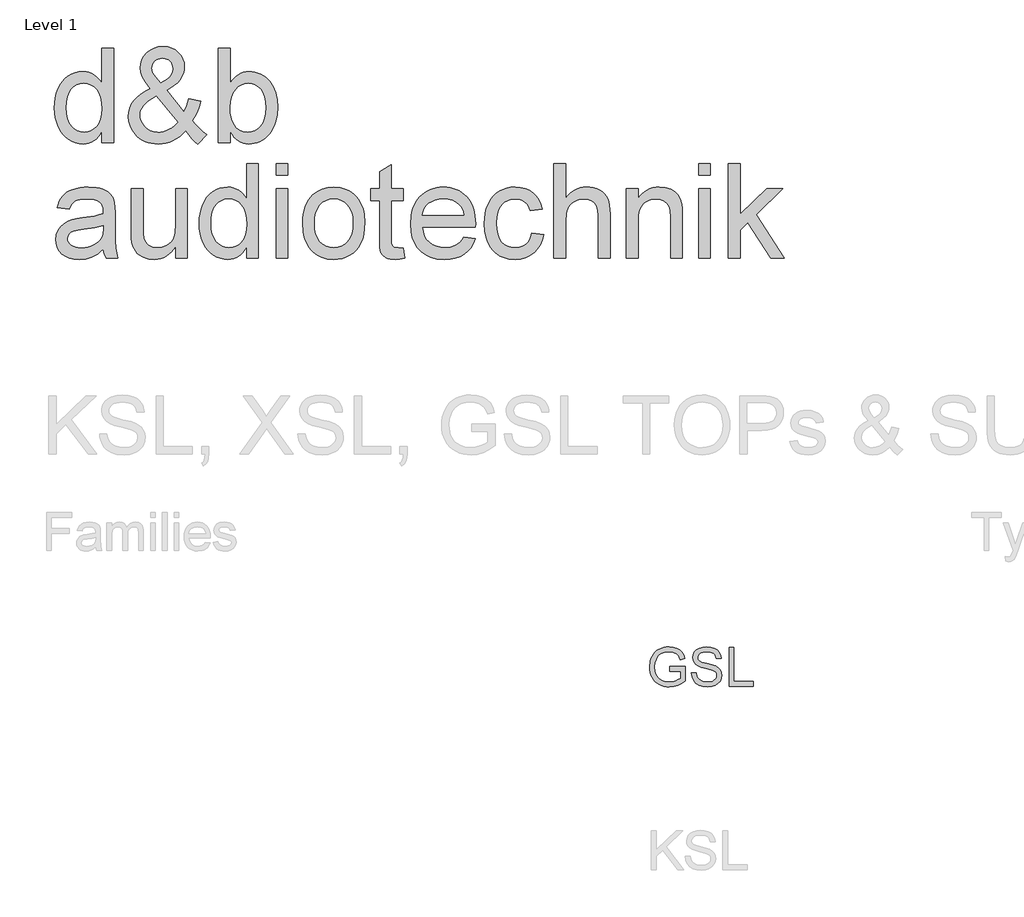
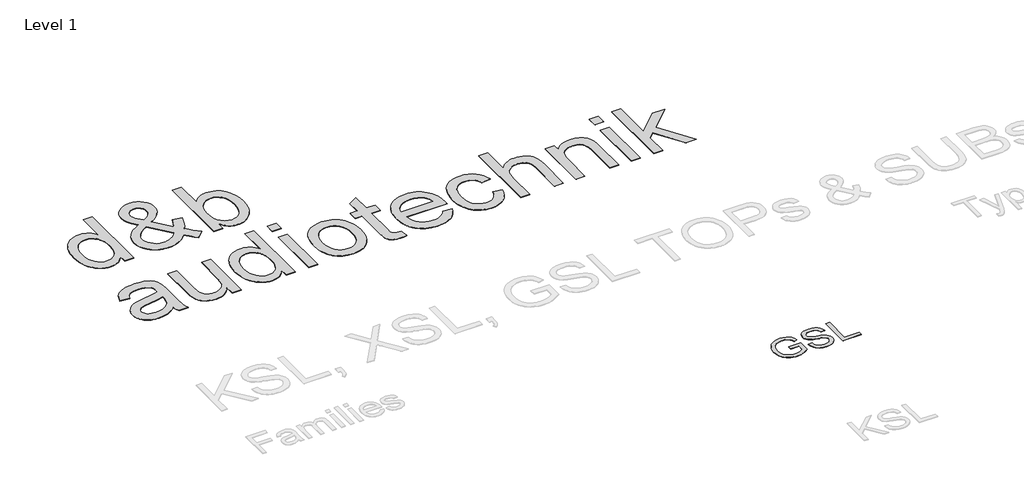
# One storey, part 46 of 52: 2 proxies.
"""IFC4 building model written with IfcOpenShell, lengths in millimetres."""

from ifc_helpers import new_model, si_unit, origin, origin_with_axes, place, context, project, spatial, polyline, outline, extrude, element, save

model = new_model("IFC4")

# Units and contexts
model_context = context("Model", 3, world=origin())
ifc_project = project(units=[si_unit("LENGTHUNIT", "METRE", prefix="MILLI")], contexts=[model_context])

# Site, building, storey
site = spatial("IfcSite", under=ifc_project)
building = spatial("IfcBuilding", under=site)
storey = spatial("IfcBuildingStorey", under=building, Name="Level 1", Elevation=0.0)

# Proxies
placement = place(None, origin())
element("IfcBuildingElementProxy", 1, Name="1000mm Arial", ObjectType="1000mm Arial", at=placement, inside=storey, context=model_context, shape_type="SweptSolid", body=[
    extrude(outline(polyline([(-20485.0918031, 21579.111869), (-20485.0918031, 21694.6019258), (-20502.4384754, 21663.947296), (-20521.720443, 21637.3799502), (-20542.937706, 21614.8998883), (-20566.0902643, 21596.5071105), (-20591.1781179, 21582.2016166), (-20618.2012669, 21571.9834066), (-20647.1597112, 21565.8524807), (-20678.0534508, 21563.8088387), (-20718.4630152, 21566.7678231), (-20757.1988107, 21575.6447762), (-20794.2608372, 21590.4396981), (-20829.6490948, 21611.1525887), (-20862.2577004, 21637.1632569), (-20890.9807709, 21667.8515115), (-20915.8183064, 21703.2173525), (-20936.7703069, 21743.26078), (-20953.4033857, 21787.2196312), (-20965.2841563, 21834.3317435), (-20972.4126187, 21884.597117), (-20974.7887728, 21938.0157516), (-20972.5994233, 21990.4555302), (-20966.0313746, 22040.4145442), (-20955.0846269, 22087.8927935), (-20939.75918, 22132.8902781), (-20920.0625062, 22174.0918939), (-20896.0020777, 22210.1825366), (-20867.5778945, 22241.1622064), (-20834.7899565, 22267.0309031), (-20798.7964521, 22287.429962), (-20760.7555697, 22302.0007184), (-20720.6673091, 22310.7431723), (-20678.5316705, 22313.6573235), (-20647.7163888, 22311.5725845), (-20618.6346535, 22305.3183676), (-20591.2864646, 22294.8946726), (-20565.671822, 22280.3014997), (-20542.0746689, 22262.3757332), (-20520.778948, 22241.9542577), (-20501.7846594, 22219.0370732), (-20485.0918031, 22193.6241796), (-20485.0918031, 22558.5058084), (-20362.6675607, 22558.5058084), (-20362.6675607, 21579.111869), (-20485.0918031, 21579.111869)]), holes=[polyline([(-20852.3645304, 21938.4939713), (-20848.9123819, 21879.1274792), (-20838.5559366, 21827.7562227), (-20821.2951944, 21784.3802017), (-20797.1301554, 21748.9994163), (-20768.2725855, 21721.5391447), (-20736.934251, 21701.9246649), (-20703.1151518, 21690.1559771), (-20666.815288, 21686.2330811), (-20630.3435639, 21689.9766447), (-20596.7262136, 21701.2073354), (-20565.9632372, 21719.9251532), (-20538.0546345, 21746.1300982), (-20514.8833958, 21780.0313914), (-20498.332511, 21821.8382539), (-20488.4019801, 21871.5506859), (-20485.0918031, 21929.1686872), (-20488.4617575, 21992.3385203), (-20498.5716208, 22046.5118453), (-20515.4213929, 22091.6886623), (-20539.0110739, 22127.8689713), (-20567.5323956, 22155.5907693), (-20599.1770896, 22175.3920537), (-20633.945156, 22187.2728242), (-20671.8365948, 22191.2330811), (-20708.8537882, 22187.4297401), (-20742.6728874, 22176.019717), (-20773.2938924, 22157.0030119), (-20800.7168031, 22130.3796247), (-20823.3126838, 22095.5667252), (-20839.4525986, 22051.9814831), (-20849.1365474, 21999.6238985), (-20852.3645304, 21938.4939713)])]), origin_with_axes(), (0.0, 0.0, 1.0), 5.0),
    extrude(outline(polyline([(-19617.362163, 21700.1014523), (-19647.8038355, 21668.157871), (-19679.590501, 21640.4734339), (-19712.7221594, 21617.0481409), (-19747.1988107, 21597.8819921), (-19783.0503436, 21582.9749875), (-19820.3066469, 21572.327127), (-19858.9677205, 21565.9384108), (-19899.0335645, 21563.8088387), (-19935.7219818, 21565.3854693), (-19970.4676317, 21570.1153609), (-20003.270514, 21577.9985138), (-20034.1306289, 21589.0349277), (-20063.0479762, 21603.2246028), (-20090.0225559, 21620.567539), (-20115.0543682, 21641.0637363), (-20138.143413, 21664.7131948), (-20169.42197, 21707.0505823), (-20191.7637965, 21751.8089571), (-20205.1688924, 21798.988319), (-20209.6372577, 21848.5886682), (-20206.0431377, 21892.569936), (-20195.260778, 21934.3693264), (-20177.2901785, 21973.9868394), (-20152.1313391, 22011.4224751), (-20119.829093, 22046.661289), (-20080.4282733, 22079.6883368), (-20033.9288799, 22110.5036185), (-19980.330913, 22139.1071341), (-20033.7420754, 22208.2098804), (-20065.8126838, 22262.9660357), (-20081.8629324, 22309.712011), (-20087.2130152, 22354.7842175), (-20082.9987041, 22397.569936), (-20070.3557709, 22437.4564476), (-20049.2842155, 22474.4437523), (-20019.784038, 22508.5318501), (-19983.9026163, 22537.0905326), (-19943.6873287, 22557.4895915), (-19899.138175, 22569.7290269), (-19850.2551554, 22573.8088387), (-19803.5839018, 22569.9083593), (-19761.3660692, 22558.2069211), (-19723.6016575, 22538.7045241), (-19690.2906667, 22511.4011682), (-19663.0919215, 22478.6281746), (-19643.6642463, 22442.7168643), (-19632.0076412, 22403.6672371), (-19628.1221061, 22361.4792932), (-19630.9988965, 22326.7336434), (-19639.6292676, 22293.273209), (-19654.0132194, 22261.09799), (-19674.150752, 22230.2079864), (-19700.0418653, 22200.6031983), (-19731.6865593, 22172.2836256), (-19769.084834, 22145.2492684), (-19812.2366895, 22119.5001266), (-19635.0562917, 21898.8017364), (-19604.8686734, 21961.866959), (-19582.2130152, 22034.3770205), (-19459.7887728, 22007.8358273), (-19477.213903, 21947.9836434), (-19497.4485739, 21894.4379817), (-19520.4927856, 21847.1988422), (-19546.346538, 21806.2662251), (-19512.6320493, 21763.9138931), (-19476.765572, 21725.0884315), (-19438.7471061, 21689.7898401), (-19398.5766516, 21658.018119), (-19490.3948334, 21563.8088387), (-19521.3745032, 21589.6327023), (-19552.8622813, 21620.9560925), (-19617.362163, 21700.1014523)]), holes=[polyline([(-19874.1661402, 22196.7326076), (-19810.1444783, 22237.3513931), (-19788.4004264, 22255.6657131), (-19773.500894, 22272.6499845), (-19756.2849849, 22306.9921365), (-19750.5463486, 22344.7416038), (-19752.4368108, 22367.2104574), (-19758.1081975, 22387.512378), (-19767.5605087, 22405.6473656), (-19780.7937444, 22421.6154201), (-19796.8664095, 22434.6394347), (-19814.8370091, 22443.9423022), (-19834.705543, 22449.5240228), (-19856.4720114, 22451.3845963), (-19878.7017552, 22449.5389671), (-19899.0036757, 22444.0020797), (-19917.3777732, 22434.773934), (-19933.8240474, 22421.85453), (-19947.3711148, 22406.2750289), (-19957.0475915, 22389.066592), (-19962.8534775, 22370.2292193), (-19964.7887728, 22349.7629107), (-19962.1585645, 22327.9142483), (-19954.2679395, 22304.9298141), (-19941.0571203, 22280.6900532), (-19922.4663296, 22255.0754107), (-19874.1661402, 22196.7326076)]), polyline([(-19699.376841, 21788.3329864), (-19917.9232425, 22061.1573235), (-19963.7202507, 22034.0333001), (-20001.4024684, 22007.8956048), (-20030.9698956, 21982.7442376), (-20052.4225323, 21958.5791985), (-20067.6433686, 21934.967101), (-20078.5153945, 21911.4745584), (-20085.03861, 21888.1015707), (-20087.2130152, 21864.8481379), (-20084.2390865, 21836.2446223), (-20075.3173003, 21807.1031095), (-20060.4476566, 21777.4235996), (-20039.6301554, 21747.2060925), (-20013.3579608, 21720.5304), (-19982.1242368, 21701.476334), (-19945.9289835, 21690.0438943), (-19904.7722008, 21686.2330811), (-19877.2969848, 21688.0114606), (-19849.3883822, 21693.3465991), (-19821.0463929, 21702.2384966), (-19792.2710171, 21714.6871531), (-19764.7210793, 21729.9602947), (-19740.055404, 21747.3256474), (-19718.2739912, 21766.7832113), (-19699.376841, 21788.3329864)])]), origin_with_axes(), (0.0, 0.0, 1.0), 5.0),
    extrude(outline(polyline([(-19153.7281667, 21579.111869), (-19276.1524092, 21579.111869), (-19276.1524092, 22558.5058084), (-19153.7281667, 22558.5058084), (-19153.7281667, 22195.2979485), (-19134.2481863, 22223.0384271), (-19113.468046, 22247.0801751), (-19091.3877459, 22267.4231927), (-19068.0072861, 22284.0674798), (-19043.3266664, 22297.0130364), (-19017.3458869, 22306.2598626), (-18990.0649476, 22311.8079583), (-18961.4838486, 22313.6573235), (-18929.5178507, 22311.9910268), (-18898.418626, 22306.9921365), (-18868.1861746, 22298.6606527), (-18838.8204963, 22286.9965754), (-18811.1734201, 22272.3137363), (-18786.0967747, 22254.925967), (-18763.5905602, 22234.8332675), (-18743.6547766, 22212.0356379), (-18710.3886189, 22158.7440305), (-18685.1924186, 22095.4695868), (-18669.3215024, 22024.8425153), (-18664.031197, 21949.4930243), (-18669.508307, 21862.5467056), (-18676.3546945, 21822.9964423), (-18685.9396369, 21786.0614429), (-18698.2631343, 21751.7417074), (-18713.3251867, 21720.0372359), (-18731.1257941, 21690.9480284), (-18751.6649565, 21664.4740849), (-18797.6861302, 21620.4330397), (-18822.3499374, 21603.1312005), (-18848.1158916, 21588.9751502), (-18874.9839928, 21577.9648889), (-18902.954241, 21570.1004166), (-18932.0266361, 21565.3817332), (-18962.2011781, 21563.8088387), (-18991.8694798, 21565.8375363), (-19019.9013734, 21571.9236292), (-19046.296859, 21582.0671173), (-19071.0559366, 21596.2680006), (-19094.1786062, 21614.5262792), (-19115.6648677, 21636.841953), (-19135.5147213, 21663.2150221), (-19153.7281667, 21693.6454864), (-19153.7281667, 21579.111869)]), holes=[polyline([(-19153.7281667, 21943.7543879), (-19151.6359556, 21888.5797904), (-19145.359322, 21841.6544826), (-19134.8982662, 21802.9784646), (-19120.252788, 21772.5517364), (-19090.5882224, 21734.7873247), (-19056.1115711, 21707.8127449), (-19016.8228341, 21691.6279971), (-18972.7220114, 21686.2330811), (-18936.1083159, 21690.2082823), (-18902.0650512, 21702.133886), (-18870.5922174, 21722.0098922), (-18841.6898145, 21749.8363008), (-18817.5247754, 21785.5383901), (-18800.2640332, 21829.0414381), (-18789.9075879, 21880.345445), (-18786.4554395, 21939.4504107), (-18789.7656164, 21999.6762037), (-18799.6961473, 22051.4733747), (-18816.2470322, 22094.8419234), (-18839.4182709, 22129.7818501), (-18867.2820404, 22156.6667636), (-18897.9105176, 22175.8702733), (-18931.3037024, 22187.3923792), (-18967.4615948, 22191.2330811), (-19004.0752903, 22187.2578799), (-19038.118555, 22175.3322762), (-19069.5913888, 22155.45627), (-19098.4937917, 22127.6298614), (-19122.6588308, 22092.2864369), (-19139.919573, 22049.8593832), (-19150.2760183, 22000.3487002), (-19153.7281667, 21943.7543879)])]), origin_with_axes(), (0.0, 0.0, 1.0), 5.0),
    extrude(outline(polyline([(-20469.7887728, 20473.9603538), (-20498.8182028, 20446.7167755), (-20528.2810195, 20423.8070631), (-20558.1772227, 20405.2312168), (-20588.5068126, 20390.9892364), (-20619.6135094, 20380.42357), (-20651.8410337, 20372.8766654), (-20719.6585645, 20366.8391417), (-20774.1681377, 20370.4706225), (-20821.9676909, 20381.365065), (-20863.0572239, 20399.5224691), (-20897.4367368, 20424.9428349), (-20924.5831768, 20456.0121708), (-20943.9734911, 20491.1164855), (-20955.6076796, 20530.2557788), (-20959.4857425, 20573.4300508), (-20953.6275512, 20624.1811162), (-20936.0529773, 20670.2695394), (-20908.9438983, 20709.7226644), (-20874.4821914, 20740.5678349), (-20833.9829608, 20763.8810451), (-20788.7613107, 20780.7382894), (-20744.7053211, 20790.123351), (-20682.8356478, 20799.1497478), (-20557.6616421, 20818.5176455), (-20509.331564, 20829.4569211), (-20470.5061023, 20841.2330811), (-20469.7887728, 20868.4916038), (-20471.8959283, 20898.1711138), (-20478.217395, 20923.1282042), (-20488.7531727, 20943.3628751), (-20503.5032614, 20958.8751266), (-20528.998349, 20974.3574893), (-20560.0527406, 20985.4163198), (-20596.6664362, 20992.051618), (-20638.8394357, 20994.2633841), (-20678.0534508, 20992.7913641), (-20711.7679395, 20988.3753041), (-20739.9829016, 20981.0152041), (-20762.6983372, 20970.7110641), (-20781.3638497, 20956.6558883), (-20797.4290427, 20938.042681), (-20810.893916, 20914.8714423), (-20821.7584698, 20887.142172), (-20944.1827122, 20902.4452023), (-20934.8649003, 20937.713905), (-20922.9318244, 20969.3959599), (-20908.3834846, 20997.4913671), (-20891.2198808, 21022.0001266), (-20870.7012669, 21043.4154024), (-20846.0878969, 21062.2303586), (-20817.3797707, 21078.4449952), (-20784.5768883, 21092.0593122), (-20748.3442741, 21102.8341997), (-20709.3469523, 21110.530548), (-20667.5849228, 21115.1483569), (-20623.0581857, 21116.6876266), (-20540.2962894, 21111.2478775), (-20505.3488906, 21104.4481912), (-20474.6905247, 21094.9286304), (-20425.2246748, 21070.3899822), (-20406.1631366, 21056.0359191), (-20390.8825228, 21040.29203), (-20368.1073097, 21003.0805598), (-20353.3422766, 20957.2013576), (-20348.8589669, 20914.8789144), (-20347.3645304, 20850.0801455), (-20347.3645304, 20697.767172), (-20345.8103164, 20565.0910948), (-20341.1476743, 20485.0789618), (-20331.9419452, 20432.5046839), (-20316.7584698, 20382.142172), (-20439.1827122, 20382.142172), (-20458.7897198, 20424.7037251), (-20469.7887728, 20473.9603538)]), holes=[polyline([(-20469.7887728, 20718.8088387), (-20552.0425607, 20698.4247241), (-20667.2935077, 20681.2685925), (-20730.8070612, 20671.8835309), (-20772.6213959, 20661.4224751), (-20800.0293623, 20647.8529912), (-20820.3238107, 20629.1426455), (-20832.8770777, 20606.7260972), (-20837.0615001, 20582.0380054), (-20834.7824843, 20563.013828), (-20827.9454371, 20545.6335309), (-20816.5503584, 20529.897114), (-20800.5972482, 20515.8045773), (-20780.2355501, 20504.1928053), (-20755.6147079, 20495.8986824), (-20726.7347215, 20490.9222087), (-20693.595591, 20489.2633841), (-20659.7615474, 20491.0940689), (-20627.8403827, 20496.5861233), (-20597.8320967, 20505.7395471), (-20569.7366895, 20518.5543406), (-20544.3910455, 20533.9694536), (-20522.6320493, 20550.9238363), (-20504.4597008, 20569.4174887), (-20489.8740001, 20589.4504107), (-20481.4005448, 20607.3836493), (-20475.3480768, 20629.1426455), (-20470.5061023, 20684.1379107), (-20469.7887728, 20718.8088387)])]), origin_with_axes(), (0.0, 0.0, 1.0), 5.0),
    extrude(outline(polyline([(-19719.940288, 20382.142172), (-19719.940288, 20505.7619637), (-19741.1762314, 20473.2019273), (-19764.2353874, 20444.9832291), (-19789.117756, 20421.1058691), (-19815.8233372, 20401.5698472), (-19844.352131, 20386.3751636), (-19874.7041374, 20375.5218181), (-19906.8793564, 20369.0098108), (-19940.877788, 20366.8391417), (-20000.5058064, 20372.9364429), (-20028.7730738, 20380.5580693), (-20056.00918, 20391.2283463), (-20102.575823, 20418.7259788), (-20120.7033384, 20434.8061162), (-20135.3936497, 20452.4404675), (-20157.4814219, 20493.388029), (-20171.8579016, 20542.5848804), (-20177.2378732, 20588.972191), (-20179.031197, 20656.4011682), (-20179.031197, 21101.3845963), (-20056.6069546, 21101.3845963), (-20056.6069546, 20714.0266417), (-20054.7538533, 20636.5550508), (-20049.1945493, 20589.2113008), (-20041.864338, 20567.1459451), (-20031.3509769, 20547.5762984), (-20017.6544659, 20530.5023608), (-20000.774805, 20515.9241323), (-19981.2201027, 20504.260055), (-19959.4984674, 20495.9285712), (-19935.6098991, 20490.9296809), (-19909.5543978, 20489.2633841), (-19882.7217895, 20490.9670418), (-19856.74101, 20496.0780148), (-19831.6120594, 20504.5963032), (-19807.3349376, 20516.5219069), (-19785.2247488, 20531.3840784), (-19766.5965971, 20548.7120702), (-19751.4504827, 20568.5058824), (-19739.7864054, 20590.7655148), (-19731.103729, 20616.9106823), (-19724.9018173, 20648.3610996), (-19719.940288, 20727.1776834), (-19719.940288, 21101.3845963), (-19597.5160455, 21101.3845963), (-19597.5160455, 20382.142172), (-19719.940288, 20382.142172)])), origin_with_axes(), (0.0, 0.0, 1.0), 5.0),
    extrude(outline(polyline([(-18985.3948334, 20382.142172), (-18985.3948334, 20497.6322288), (-19002.7415057, 20466.977599), (-19022.0234733, 20440.4102532), (-19043.2407363, 20417.9301914), (-19066.3932946, 20399.5374135), (-19091.4811482, 20385.2319196), (-19118.5042972, 20375.0137097), (-19147.4627415, 20368.8827837), (-19178.3564811, 20366.8391417), (-19218.7660455, 20369.7981261), (-19257.501841, 20378.6750792), (-19294.5638675, 20393.4700011), (-19329.9521251, 20414.1828917), (-19362.5607307, 20440.1935599), (-19391.2838012, 20470.8818145), (-19416.1213367, 20506.2476556), (-19437.0733372, 20546.291083), (-19453.706416, 20590.2499342), (-19465.5871866, 20637.3620466), (-19472.715649, 20687.62742), (-19475.0918031, 20741.0460546), (-19472.9024536, 20793.4858332), (-19466.3344049, 20843.4448472), (-19455.3876572, 20890.9230965), (-19440.0622103, 20935.9205811), (-19420.3655365, 20977.1221969), (-19396.305108, 21013.2128396), (-19367.8809248, 21044.1925094), (-19335.0929868, 21070.0612061), (-19299.0994824, 21090.4602651), (-19261.0586, 21105.0310215), (-19220.9703394, 21113.7734753), (-19178.8347008, 21116.6876266), (-19148.0194191, 21114.6028876), (-19118.9376838, 21108.3486706), (-19091.5894949, 21097.9249756), (-19065.9748523, 21083.3318027), (-19042.3776992, 21065.4060363), (-19021.0819783, 21044.9845608), (-19002.0876897, 21022.0673762), (-18985.3948334, 20996.6544826), (-18985.3948334, 21361.5361114), (-18862.970591, 21361.5361114), (-18862.970591, 20382.142172), (-18985.3948334, 20382.142172)]), holes=[polyline([(-19352.6675607, 20741.5242743), (-19349.2154122, 20682.1577822), (-19338.8589669, 20630.7865257), (-19321.5982247, 20587.4105048), (-19297.4331857, 20552.0297194), (-19268.5756158, 20524.5694477), (-19237.2372813, 20504.954968), (-19203.4181821, 20493.1862801), (-19167.1183183, 20489.2633841), (-19130.6465942, 20493.0069477), (-19097.0292439, 20504.2376384), (-19066.2662675, 20522.9554562), (-19038.3576648, 20549.1604012), (-19015.1864261, 20583.0616944), (-18998.6355413, 20624.868557), (-18988.7050104, 20674.5809889), (-18985.3948334, 20732.1989902), (-18988.7647878, 20795.3688233), (-18998.8746511, 20849.5421483), (-19015.7244233, 20894.7189653), (-19039.3141042, 20930.8992743), (-19067.8354259, 20958.6210724), (-19099.4801199, 20978.4223567), (-19134.2481863, 20990.3031273), (-19172.1396251, 20994.2633841), (-19209.1568185, 20990.4600431), (-19242.9759177, 20979.05002), (-19273.5969227, 20960.0333149), (-19301.0198334, 20933.4099277), (-19323.6157141, 20898.5970282), (-19339.7556289, 20855.0117861), (-19349.4395777, 20802.6542015), (-19352.6675607, 20741.5242743)])]), origin_with_axes(), (0.0, 0.0, 1.0), 5.0),
    extrude(outline(polyline([(-18679.3342273, 20382.142172), (-18679.3342273, 21101.3845963), (-18556.9099849, 21101.3845963), (-18556.9099849, 20382.142172), (-18679.3342273, 20382.142172)])), origin_with_axes(), (0.0, 0.0, 1.0), 5.0),
    extrude(outline(polyline([(-18679.3342273, 21239.111869), (-18679.3342273, 21361.5361114), (-18556.9099849, 21361.5361114), (-18556.9099849, 21239.111869), (-18679.3342273, 21239.111869)])), origin_with_axes(), (0.0, 0.0, 1.0), 5.0),
    extrude(outline(polyline([(-18403.8796819, 20741.7633841), (-18402.2245934, 20789.9477547), (-18397.259328, 20834.9116145), (-18388.9838856, 20876.6549635), (-18377.3982662, 20915.1778018), (-18362.5024698, 20950.4801292), (-18344.2964965, 20982.5619459), (-18322.7803463, 21011.4232519), (-18297.954019, 21037.064047), (-18251.2977098, 21071.8993631), (-18199.7994262, 21096.7817317), (-18143.4591682, 21111.7111528), (-18082.2769357, 21116.6876266), (-18014.7358757, 21110.6276863), (-17983.391937, 21103.0527611), (-17953.6657259, 21092.4478657), (-17925.5572424, 21078.8130002), (-17899.0664865, 21062.1481646), (-17874.1934581, 21042.4533588), (-17850.9381573, 21019.728583), (-17829.8946226, 20994.3325018), (-17811.6568925, 20966.6237801), (-17796.224967, 20936.6024178), (-17783.5988462, 20904.2684149), (-17773.77853, 20869.6217715), (-17766.7640184, 20832.6624875), (-17761.1524092, 20751.8059978), (-17763.6331738, 20686.2749549), (-17771.0754679, 20628.1264287), (-17783.4792913, 20577.3604189), (-17800.844644, 20533.9769258), (-17822.9548328, 20496.5039292), (-17849.5931644, 20463.4694092), (-17880.7596387, 20434.8733658), (-17916.4542558, 20410.7157989), (-17955.2871896, 20391.5197614), (-17995.8686142, 20377.808306), (-18038.1985295, 20369.5814328), (-18082.2769357, 20366.8391417), (-18150.8043238, 20372.8766654), (-18182.4845107, 20380.42357), (-18212.4423594, 20390.9892364), (-18240.6778701, 20404.5736647), (-18267.1910426, 20421.1768548), (-18291.9818769, 20440.7988067), (-18315.0503732, 20463.4395205), (-18335.8697424, 20488.9196637), (-18353.9131957, 20517.059904), (-18369.1807332, 20547.8602414), (-18381.6723547, 20581.3206758), (-18391.3880604, 20617.4412073), (-18398.3278501, 20656.2218358), (-18403.8796819, 20741.7633841)]), holes=[polyline([(-18281.4554395, 20742.002494), (-18277.9136248, 20682.6210576), (-18267.2881809, 20631.204968), (-18249.5791078, 20587.7542252), (-18224.7864054, 20552.2688292), (-18194.6286757, 20524.703947), (-18160.8245209, 20505.0147454), (-18123.3739409, 20493.2012245), (-18082.2769357, 20489.2633841), (-18041.3891516, 20493.223641), (-18004.0880152, 20505.1044116), (-17970.3735266, 20524.9056959), (-17940.2456857, 20552.627494), (-17915.4529833, 20588.4640825), (-17897.7439101, 20632.6097383), (-17887.1184662, 20685.0644613), (-17883.5766516, 20745.8282516), (-17887.1408828, 20803.3266979), (-17897.8335763, 20853.3977947), (-17915.6547322, 20896.0415417), (-17940.6043505, 20931.2579391), (-17970.8442741, 20958.8228213), (-18004.5363462, 20978.5120229), (-18041.6805667, 20990.3255438), (-18082.2769357, 20994.2633841), (-18123.3739409, 20990.3404882), (-18160.8245209, 20978.5718003), (-18194.6286757, 20958.9573206), (-18224.7864054, 20931.4970489), (-18249.5791078, 20896.1162635), (-18267.2881809, 20852.7402426), (-18277.9136248, 20801.3689861), (-18281.4554395, 20742.002494)])]), origin_with_axes(), (0.0, 0.0, 1.0), 5.0),
    extrude(outline(polyline([(-17363.2736213, 20484.2420773), (-17347.970591, 20378.5555243), (-17396.4501128, 20369.7682374), (-17439.549663, 20366.8391417), (-17498.3109082, 20371.920226), (-17522.0873938, 20378.2715814), (-17542.127788, 20387.1634788), (-17573.0925133, 20410.6560215), (-17593.2972955, 20440.4849751), (-17599.7831502, 20461.5415861), (-17604.4159035, 20491.7142601), (-17608.1221061, 20579.407797), (-17608.1221061, 20978.9603538), (-17699.940288, 20978.9603538), (-17699.940288, 21101.3845963), (-17608.1221061, 21101.3845963), (-17608.1221061, 21276.1738955), (-17485.6978637, 21348.1459599), (-17485.6978637, 21101.3845963), (-17363.2736213, 21101.3845963), (-17363.2736213, 20978.9603538), (-17485.6978637, 20978.9603538), (-17485.6978637, 20582.9944448), (-17484.0838722, 20542.7044353), (-17479.2418978, 20519.8694448), (-17470.7833869, 20507.2265115), (-17458.3197861, 20497.5126739), (-17440.655546, 20491.3257066), (-17416.5951175, 20489.2633841), (-17363.2736213, 20484.2420773)])), origin_with_axes(), (0.0, 0.0, 1.0), 5.0),
    extrude(outline(polyline([(-16737.284038, 20596.3845963), (-16617.250894, 20581.081566), (-16635.6548802, 20533.0055421), (-16660.4998879, 20490.6382658), (-16691.7859171, 20453.9797371), (-16729.5129679, 20423.0299561), (-16773.2924867, 20398.4464748), (-16822.7359201, 20380.8868453), (-16877.8432679, 20370.3510676), (-16938.6145304, 20366.8391417), (-16977.6305327, 20368.3541268), (-17014.5767404, 20372.8990819), (-17049.4531534, 20380.4740072), (-17082.2597719, 20391.0789026), (-17112.9965957, 20404.7137681), (-17141.6636248, 20421.3786037), (-17168.2608594, 20441.0734094), (-17192.7882993, 20463.7981853), (-17214.812558, 20489.25778), (-17233.9002489, 20517.1570424), (-17250.0513719, 20547.4959725), (-17263.2659272, 20580.2745702), (-17273.5439146, 20615.4928356), (-17280.8853341, 20653.1507687), (-17286.7584698, 20735.7856379), (-17280.8255567, 20821.2225757), (-17273.4094153, 20860.1414396), (-17263.0268173, 20896.5272336), (-17249.6777628, 20930.3799576), (-17233.3622517, 20961.6996117), (-17214.0802841, 20990.4861958), (-17191.8318599, 21016.7397099), (-17167.2184899, 21040.1650029), (-17140.8416847, 21060.4669234), (-17112.7014444, 21077.6454716), (-17082.797769, 21091.7006474), (-17051.1306585, 21102.6324508), (-17017.7001128, 21110.4408818), (-16982.5061319, 21115.1259404), (-16945.548716, 21116.6876266), (-16909.7999256, 21115.1296765), (-16875.721168, 21110.4558261), (-16843.3124433, 21102.6660756), (-16812.5737515, 21091.7604249), (-16783.5050925, 21077.7388739), (-16756.1064663, 21060.6014227), (-16730.377873, 21040.3480713), (-16706.3193126, 21016.9788198), (-16684.54724, 20990.7850831), (-16665.6781105, 20962.0582764), (-16649.711924, 20930.7983998), (-16636.6486805, 20897.0054533), (-16626.48838, 20860.6794368), (-16619.2310224, 20821.8203503), (-16613.4251364, 20736.5029675), (-16614.142466, 20703.5058084), (-17164.3342273, 20703.5058084), (-17157.2431259, 20654.6526775), (-17143.143117, 20611.866959), (-17122.0342007, 20575.1486528), (-17093.916377, 20544.4977591), (-17060.3438598, 20520.3327201), (-17022.8708632, 20503.0719779), (-16981.4973873, 20492.7155326), (-16936.2234319, 20489.2633841), (-16902.3594996, 20490.8624313), (-16871.0659982, 20495.6595726), (-16842.3429276, 20503.6548082), (-16816.190288, 20514.8481379), (-16792.6080791, 20529.5384492), (-16771.5963012, 20548.0246294), (-16753.1549541, 20570.3066784), (-16737.284038, 20596.3845963)]), holes=[polyline([(-17164.3342273, 20825.9300508), (-16735.8493789, 20825.9300508), (-16742.1409568, 20860.5710901), (-16752.4077359, 20890.6092648), (-16766.6497162, 20916.044575), (-16784.8668978, 20936.8770205), (-16818.2526104, 20961.9835546), (-16856.2411876, 20979.9167932), (-16898.8326293, 20990.6767364), (-16946.0269357, 20994.2633841), (-16989.0741806, 20991.4015381), (-17028.5497221, 20982.8160001), (-17064.4535603, 20968.5067702), (-17096.7856952, 20948.4738482), (-17123.9171908, 20923.6437848), (-17144.2191113, 20894.9431308), (-17157.6914569, 20862.3718862), (-17164.3342273, 20825.9300508)])]), origin_with_axes(), (0.0, 0.0, 1.0), 5.0),
    extrude(outline(polyline([(-16031.9099849, 20642.2936872), (-15909.4857425, 20626.9906569), (-15922.8011722, 20569.2232119), (-15943.6186734, 20518.1060096), (-15971.9382461, 20473.63905), (-16007.7598902, 20435.822333), (-16049.574225, 20405.6421868), (-16095.8718694, 20384.0849395), (-16146.6528235, 20371.1505912), (-16201.9170872, 20366.8391417), (-16270.5789746, 20372.8542488), (-16302.2479532, 20380.3731328), (-16332.1422884, 20390.8995702), (-16360.2619802, 20404.4335613), (-16386.6070286, 20420.9751059), (-16411.1774336, 20440.524204), (-16433.9731952, 20463.0808557), (-16454.5123575, 20488.4470482), (-16472.3129649, 20516.4247685), (-16487.3750173, 20547.0140167), (-16499.6985148, 20580.2147928), (-16509.2834572, 20616.0270967), (-16516.1298447, 20654.4509285), (-16521.6069546, 20739.1331758), (-16519.2681614, 20795.4211286), (-16512.2517818, 20848.0776005), (-16500.5578158, 20897.1025916), (-16484.1862633, 20942.4961019), (-16463.0250417, 20983.3465251), (-16436.9620683, 21018.7422549), (-16405.9973429, 21048.6832912), (-16370.1308656, 21073.1696341), (-16330.9841001, 21092.2087558), (-16290.17851, 21105.8081285), (-16247.7140954, 21113.967752), (-16203.5908561, 21116.6876266), (-16149.2755596, 21112.9515352), (-16100.1459579, 21101.743261), (-16056.2020511, 21083.0628041), (-16017.4438391, 21056.9101644), (-15984.528874, 21023.8831166), (-15958.1147079, 20984.5794353), (-15938.2013409, 20938.9991204), (-15924.7887728, 20887.142172), (-16047.2130152, 20871.8391417), (-16056.769937, 20900.4351852), (-16069.4203424, 20925.2503041), (-16085.1642315, 20946.2844986), (-16104.0016042, 20963.5377686), (-16125.454241, 20976.9802254), (-16149.0439219, 20986.5819803), (-16174.7706472, 20992.3430332), (-16202.6344167, 20994.2633841), (-16244.2320582, 20990.4824597), (-16281.7498879, 20979.1396862), (-16315.1879057, 20960.2350638), (-16344.5461118, 20933.7685925), (-16368.4496245, 20899.1275532), (-16385.5235621, 20855.6992269), (-16395.7679247, 20803.4836138), (-16399.1827122, 20742.4807137), (-16395.8426465, 20680.5587351), (-16385.8224494, 20627.7378751), (-16369.1221209, 20584.0181338), (-16345.7416611, 20549.399511), (-16316.9662852, 20523.0899555), (-16284.0812089, 20504.2974159), (-16247.086432, 20493.0218921), (-16205.9819546, 20489.2633841), (-16172.8577684, 20491.6096495), (-16142.587956, 20498.6484457), (-16115.1725175, 20510.3797726), (-16090.6114527, 20526.8036304), (-16069.5922026, 20548.0993512), (-16052.8022079, 20574.4462677), (-16040.2414687, 20605.8443796), (-16031.9099849, 20642.2936872)])), origin_with_axes(), (0.0, 0.0, 1.0), 5.0),
    extrude(outline(polyline([(-15802.3645304, 20382.142172), (-15802.3645304, 21361.5361114), (-15679.940288, 21361.5361114), (-15679.940288, 21001.4366796), (-15658.1476669, 21028.4486203), (-15634.9726921, 21051.8589689), (-15610.4153634, 21071.6677254), (-15584.4756809, 21087.8748898), (-15557.1536447, 21100.4804622), (-15528.4492546, 21109.4844424), (-15498.3625107, 21114.8868305), (-15466.893413, 21116.6876266), (-15428.6208928, 21114.7224425), (-15392.9486923, 21108.8268903), (-15359.8768114, 21099.00097), (-15329.4052501, 21085.2446815), (-15302.3111154, 21068.0213002), (-15279.3715143, 21047.7941015), (-15260.5864468, 21024.5630853), (-15245.955913, 20998.3282516), (-15234.9718043, 20967.4681367), (-15227.1260124, 20930.3612771), (-15222.4185372, 20887.0076727), (-15220.8493789, 20837.4073235), (-15220.8493789, 20382.142172), (-15343.2736213, 20382.142172), (-15343.2736213, 20824.7345016), (-15345.7095529, 20866.0706166), (-15353.0173476, 20901.369208), (-15365.1970055, 20930.6302757), (-15382.2485266, 20953.8538198), (-15403.768413, 20971.5330042), (-15429.3531667, 20984.160993), (-15459.002788, 20991.7377864), (-15492.7172766, 20994.2633841), (-15518.981999, 20992.5597265), (-15544.4546701, 20987.4487535), (-15569.1352897, 20978.9304651), (-15593.023858, 20967.0048614), (-15614.8276873, 20952.1651064), (-15633.25409, 20934.9043643), (-15648.3030661, 20915.2226349), (-15659.9746156, 20893.1199182), (-15668.7095973, 20867.5799975), (-15674.9488699, 20837.5866559), (-15679.940288, 20764.2397099), (-15679.940288, 20382.142172), (-15802.3645304, 20382.142172)])), origin_with_axes(), (0.0, 0.0, 1.0), 5.0),
    extrude(outline(polyline([(-15052.5160455, 20382.142172), (-15052.5160455, 21101.3845963), (-14930.0918031, 21101.3845963), (-14930.0918031, 21000.9584599), (-14909.8944931, 21028.0824833), (-14887.5601388, 21051.5899703), (-14863.0887403, 21071.4809208), (-14836.4802974, 21087.7553349), (-14807.7348103, 21100.4132125), (-14776.852279, 21109.4545537), (-14743.8327033, 21114.8793583), (-14708.6760834, 21116.6876266), (-14648.3307354, 21110.859324), (-14593.0664717, 21093.3744163), (-14568.3634354, 21080.8062049), (-14546.9780484, 21066.4147809), (-14528.9103104, 21050.2001443), (-14514.1602217, 21032.1622951), (-14491.893117, 20990.7066251), (-14477.4568599, 20942.1374372), (-14472.6148855, 20895.6903491), (-14471.000894, 20823.7780622), (-14471.000894, 20382.142172), (-14593.4251364, 20382.142172), (-14593.4251364, 20807.2794826), (-14596.9520067, 20870.583815), (-14607.5326175, 20915.596244), (-14615.9388231, 20932.6253485), (-14627.0499589, 20947.8461848), (-14657.3870209, 20972.8630527), (-14696.27226, 20988.9133013), (-14741.4341327, 20994.2633841), (-14778.6082419, 20991.2595667), (-14813.1371985, 20982.2481143), (-14845.0210023, 20967.2290269), (-14874.2596535, 20946.2023046), (-14898.6862189, 20916.7768489), (-14916.1337657, 20876.5615612), (-14926.6022938, 20825.5564417), (-14930.0918031, 20763.7614902), (-14930.0918031, 20382.142172), (-15052.5160455, 20382.142172)])), origin_with_axes(), (0.0, 0.0, 1.0), 5.0),
    extrude(outline(polyline([(-14302.6675607, 20382.142172), (-14302.6675607, 21101.3845963), (-14180.2433183, 21101.3845963), (-14180.2433183, 20382.142172), (-14302.6675607, 20382.142172)])), origin_with_axes(), (0.0, 0.0, 1.0), 5.0),
    extrude(outline(polyline([(-14302.6675607, 21239.111869), (-14302.6675607, 21361.5361114), (-14180.2433183, 21361.5361114), (-14180.2433183, 21239.111869), (-14302.6675607, 21239.111869)])), origin_with_axes(), (0.0, 0.0, 1.0), 5.0),
    extrude(outline(polyline([(-13996.6069546, 20382.142172), (-13996.6069546, 21361.5361114), (-13874.1827122, 21361.5361114), (-13874.1827122, 20835.2553349), (-13599.6846061, 21101.3845963), (-13430.3948334, 21101.3845963), (-13708.2404773, 20831.907797), (-13415.0918031, 20382.142172), (-13558.0794925, 20382.142172), (-13795.9937917, 20746.784691), (-13874.1827122, 20670.986869), (-13874.1827122, 20382.142172), (-13996.6069546, 20382.142172)])), origin_with_axes(), (0.0, 0.0, 1.0), 5.0),
])
element("IfcBuildingElementProxy", 2, Name="400mm Arial", ObjectType="400mm Arial", at=placement, inside=storey, context=model_context, shape_type="SweptSolid", body=[
    extrude(outline(polyline([(-14603.1752746, 16100.8627747), (-14603.1752746, 16151.0909298), (-14439.9337706, 16151.0909298), (-14439.9337706, 16000.8969739), (-14479.6037124, 15973.3058242), (-14520.524453, 15953.5137729), (-14562.5978905, 15941.5943963), (-14605.7259231, 15937.6212707), (-14634.5770685, 15939.2000976), (-14662.073182, 15943.9365783), (-14688.2142634, 15951.8307128), (-14713.0003128, 15962.882501), (-14735.6311869, 15976.9263962), (-14755.3067423, 15993.7968514), (-14772.026979, 16013.4938665), (-14785.791897, 16036.0174417), (-14796.5432483, 16060.6471413), (-14804.2227849, 16086.6625297), (-14808.8305069, 16114.063607), (-14810.3664142, 16142.8503731), (-14804.2473104, 16199.4428867), (-14796.5984306, 16226.2584184), (-14785.8899988, 16252.0868002), (-14772.3120875, 16275.7937291), (-14756.054769, 16296.2449023), (-14737.1180433, 16313.4403199), (-14715.5019104, 16327.3799819), (-14691.6754199, 16338.152793), (-14666.1076212, 16345.847658), (-14638.7985144, 16350.4645771), (-14609.7480995, 16352.0035501), (-14568.3736378, 16348.4350947), (-14531.1685054, 16337.7297287), (-14499.8372221, 16320.6600041), (-14476.084308, 16297.9984732), (-14458.5118113, 16268.6537527), (-14445.7217806, 16231.5344594), (-14492.0258611, 16218.4869113), (-14502.3633451, 16244.9621522), (-14514.9326466, 16264.9381446), (-14531.5609128, 16279.9967809), (-14554.0752909, 16291.7199538), (-14580.9184138, 16299.2615347), (-14610.5329145, 16301.775395), (-14645.1996611, 16299.065331), (-14674.8386872, 16290.9351389), (-14699.3396281, 16278.4026256), (-14718.5921192, 16262.4855979), (-14733.3687126, 16244.005659), (-14744.4419607, 16223.784412), (-14756.2141845, 16185.8680411), (-14760.1382592, 16144.9105123), (-14755.4171069, 16096.8773864), (-14741.2536501, 16057.3545974), (-14718.0770844, 16026.6241881), (-14686.3166055, 16004.9682013), (-14649.1482612, 15992.1291197), (-14609.7480995, 15987.8494258), (-14574.9587255, 15991.0745246), (-14541.0277428, 16000.7498211), (-14511.560395, 16014.079412), (-14490.1619256, 16028.2673943), (-14490.1619256, 16100.8627747), (-14603.1752746, 16100.8627747)])), origin_with_axes(), (0.0, 0.0, 1.0), 5.0),
    extrude(outline(polyline([(-14377.1485767, 16082.0272165), (-14326.9204216, 16082.0272165), (-14321.1569371, 16054.154024), (-14310.7336139, 16031.7500105), (-14294.4732297, 16013.9690474), (-14271.1985621, 15999.9650062), (-14242.7490211, 15990.8783209), (-14210.9640168, 15987.8494258), (-14182.9804597, 15990.1425569), (-14158.4795188, 15997.0219502), (-14138.6261538, 16007.9112573), (-14124.5853243, 16022.2341296), (-14116.234403, 16038.6784548), (-14113.4507626, 16055.9321204), (-14115.5354272, 16072.7443275), (-14121.7894211, 16087.2756663), (-14134.4936127, 16099.6732896), (-14155.9288703, 16110.08435), (-14229.0638109, 16129.2632647), (-14277.0724113, 16141.9551936), (-14307.7905579, 16154.0339857), (-14332.7942708, 16170.932032), (-14350.5139203, 16191.4107964), (-14361.0721335, 16215.0288205), (-14364.5915379, 16241.3446459), (-14360.2382677, 16270.7629428), (-14347.1784568, 16298.1946769), (-14325.755462, 16321.444819), (-14296.3126396, 16338.3183399), (-14260.9714426, 16348.5822475), (-14221.8533238, 16352.0035501), (-14179.473318, 16348.422832), (-14142.3908129, 16337.6806777), (-14111.9301837, 16319.9978165), (-14089.4158056, 16295.5949775), (-14075.1665096, 16265.9927396), (-14069.5011269, 16232.7116818), (-14119.729282, 16232.7116818), (-14128.9508573, 16262.6818016), (-14137.3140413, 16274.5398646), (-14148.1788229, 16284.313263), (-14178.2225192, 16297.409862), (-14219.8912865, 16301.775395), (-14262.5410725, 16297.4589129), (-14278.8443762, 16292.0633103), (-14291.7999538, 16284.5094667), (-14308.7225256, 16265.4531793), (-14314.3633829, 16242.8161739), (-14310.3657319, 16223.5146319), (-14298.3727788, 16207.9900117), (-14270.0213397, 16194.1085977), (-14216.3596194, 16179.9328782), (-14160.9811164, 16166.4683972), (-14127.4793293, 16154.7206988), (-14098.8458474, 16136.4982773), (-14078.869855, 16114.0084247), (-14067.1344194, 16087.4963955), (-14063.2226075, 16057.2074446), (-14067.7230306, 16026.2440433), (-14081.2242998, 15997.1200521), (-14103.1745922, 15972.0550255), (-14133.0220847, 15953.2685182), (-14168.9151047, 15941.5330826), (-14209.0019795, 15937.6212707), (-14258.2123277, 15941.8396509), (-14298.7161353, 15954.4947916), (-14330.9793863, 15975.6357435), (-14355.4680645, 16005.3115578), (-14371.1888884, 16041.4620952), (-14377.1485767, 16082.0272165)])), origin_with_axes(), (0.0, 0.0, 1.0), 5.0),
    extrude(outline(polyline([(-13987.8803749, 15943.8997901), (-13987.8803749, 16345.7250307), (-13937.6522198, 16345.7250307), (-13937.6522198, 15994.1279452), (-13736.7395995, 15994.1279452), (-13736.7395995, 15943.8997901), (-13987.8803749, 15943.8997901)])), origin_with_axes(), (0.0, 0.0, 1.0), 5.0),
])

save(model, "model.ifc")
